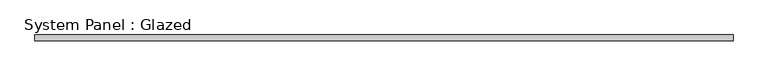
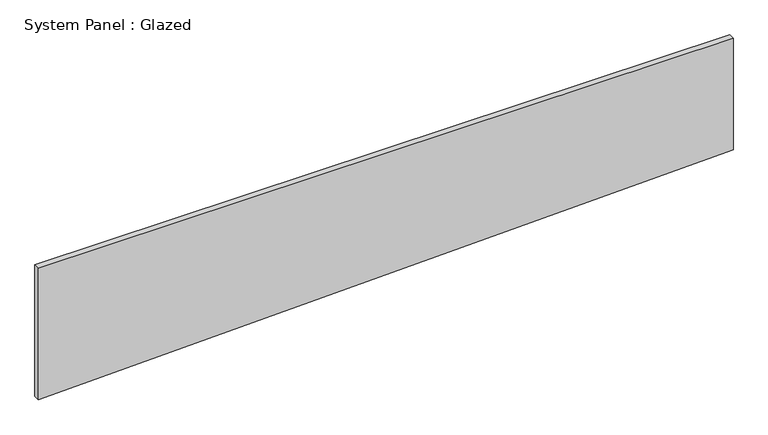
"""IFC4 building model written with IfcOpenShell, lengths in millimetres: plate geometry, System Panel : Glazed."""

from ifc_helpers import new_model, si_unit, frame, origin, place, context, project, spatial, polyline, outline, extrude, source, transform, mapped, element, save


def system_panel_glazed_0cdb66c7(model_context):
    return source(origin(), model_context, "Body", "SweptSolid", [
        extrude(outline(polyline([(0.0, -1504.95), (89.9358858, 1504.95), (601.1651695, 1504.95), (601.1651695, -1504.95), (0.0, -1504.95)])), frame((0.0, 19.05, 0.0), z_axis=(0.0, 1.0, 0.0), x_axis=(0.0, 0.0, 1.0)), (0.0, 0.0, 1.0), 25.4),
    ])


if __name__ == "__main__":
    model = new_model("IFC4")
    model_context = context("Model", 3, world=origin())
    ifc_project = project(units=[si_unit("LENGTHUNIT", "METRE", prefix="MILLI")], contexts=[model_context])
    site = spatial("IfcSite", under=ifc_project)
    building = spatial("IfcBuilding", under=site)
    placement = place(None, origin())
    system_panel_glazed_shape = system_panel_glazed_0cdb66c7(model_context)
    element("IfcPlate", 1, ObjectType="System Panel : Glazed", at=placement, inside=building, context=model_context, shape_type="MappedRepresentation", body=[
        mapped(system_panel_glazed_shape, transform((0.0, 0.0, 0.0), x_axis=(1.0, 0.0, 0.0), y_axis=(0.0, 1.0, 0.0), z_axis=(0.0, 0.0, 1.0))),
    ])
    save(model, "model.ifc")
